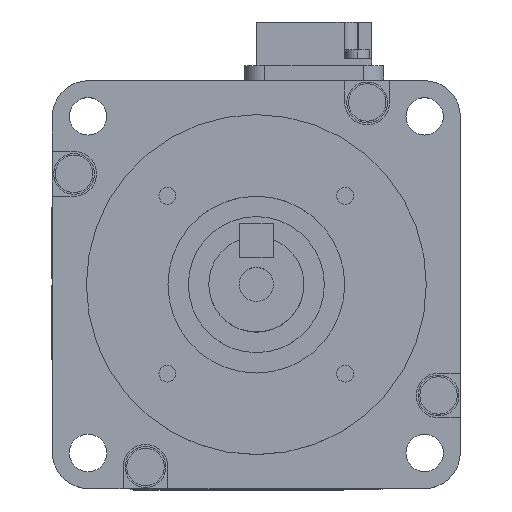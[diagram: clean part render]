
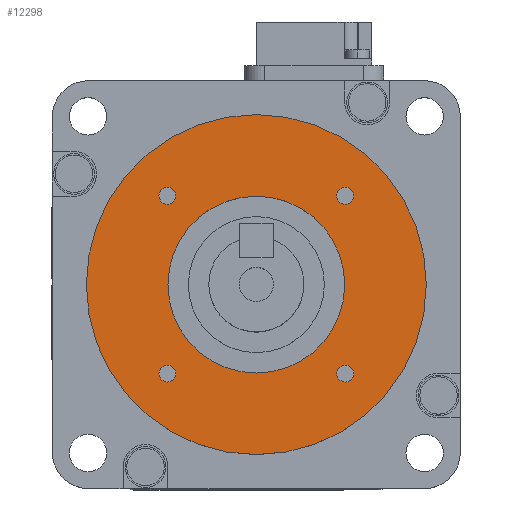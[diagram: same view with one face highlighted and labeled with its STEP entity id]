
A CAD part, top view. The second image highlights one B-rep face of the part: STEP entity #12298.
In plain terms, the highlighted planar face has unit normal (0, 0, 1).
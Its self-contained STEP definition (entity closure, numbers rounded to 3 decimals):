
#95 = VERTEX_POINT ( 'NONE', #619 ) ;
#146 = EDGE_CURVE ( 'NONE', #95, #13467, #695, .T. ) ;
#619 = CARTESIAN_POINT ( 'NONE',  ( -25., 0., 3. ) ) ;
#690 = DIRECTION ( 'NONE',  ( -1., 0., 0. ) ) ;
#692 = DIRECTION ( 'NONE',  ( 0., 0., -1. ) ) ;
#693 = CARTESIAN_POINT ( 'NONE',  ( 0., 0., 3. ) ) ;
#694 = AXIS2_PLACEMENT_3D ( 'NONE', #693, #692, #690 ) ;
#695 = CIRCLE ( 'NONE', #694, 25. ) ;
#1521 = CARTESIAN_POINT ( 'NONE',  ( -13., 0., 3. ) ) ;
#1528 = CARTESIAN_POINT ( 'NONE',  ( 13., 0., 3. ) ) ;
#1534 = DIRECTION ( 'NONE',  ( -1., 0., 0. ) ) ;
#1535 = DIRECTION ( 'NONE',  ( 0., 0., -1. ) ) ;
#1536 = CARTESIAN_POINT ( 'NONE',  ( 0., 0., 3. ) ) ;
#1537 = AXIS2_PLACEMENT_3D ( 'NONE', #1536, #1535, #1534 ) ;
#1538 = CIRCLE ( 'NONE', #1537, 13. ) ;
#2990 = DIRECTION ( 'NONE',  ( -1., 0., 0. ) ) ;
#2991 = DIRECTION ( 'NONE',  ( 0., 0., -1. ) ) ;
#2992 = CARTESIAN_POINT ( 'NONE',  ( 0., 0., 3. ) ) ;
#2993 = AXIS2_PLACEMENT_3D ( 'NONE', #2992, #2991, #2990 ) ;
#2994 = CIRCLE ( 'NONE', #2993, 13. ) ;
#3076 = CARTESIAN_POINT ( 'NONE',  ( -14.331, 13.081, 3. ) ) ;
#3122 = DIRECTION ( 'NONE',  ( 1., 0., 0. ) ) ;
#3125 = DIRECTION ( 'NONE',  ( 0., 0., 1. ) ) ;
#3126 = CARTESIAN_POINT ( 'NONE',  ( 13.081, 13.081, 3. ) ) ;
#3127 = AXIS2_PLACEMENT_3D ( 'NONE', #3126, #3125, #3122 ) ;
#3128 = CIRCLE ( 'NONE', #3127, 1.25 ) ;
#3555 = DIRECTION ( 'NONE',  ( -1., 0., 0. ) ) ;
#3556 = DIRECTION ( 'NONE',  ( 0., 0., -1. ) ) ;
#3557 = CARTESIAN_POINT ( 'NONE',  ( 0., 0., 3. ) ) ;
#3558 = AXIS2_PLACEMENT_3D ( 'NONE', #3557, #3556, #3555 ) ;
#3559 = CIRCLE ( 'NONE', #3558, 25. ) ;
#4499 = EDGE_CURVE ( 'NONE', #4671, #4683, #1538, .T. ) ;
#4640 = DIRECTION ( 'NONE',  ( -1., 0., 0. ) ) ;
#4641 = DIRECTION ( 'NONE',  ( 0., 0., 1. ) ) ;
#4642 = CARTESIAN_POINT ( 'NONE',  ( -13.081, -13.081, 3. ) ) ;
#4643 = AXIS2_PLACEMENT_3D ( 'NONE', #4642, #4641, #4640 ) ;
#4644 = CIRCLE ( 'NONE', #4643, 1.25 ) ;
#4671 = VERTEX_POINT ( 'NONE', #1528 ) ;
#4683 = VERTEX_POINT ( 'NONE', #1521 ) ;
#4693 = CARTESIAN_POINT ( 'NONE',  ( 14.331, -13.081, 3. ) ) ;
#4701 = DIRECTION ( 'NONE',  ( 0., -1., 0. ) ) ;
#4703 = DIRECTION ( 'NONE',  ( 0., 0., 1. ) ) ;
#4704 = CARTESIAN_POINT ( 'NONE',  ( 13.081, -13.081, 3. ) ) ;
#4705 = AXIS2_PLACEMENT_3D ( 'NONE', #4704, #4703, #4701 ) ;
#4706 = CIRCLE ( 'NONE', #4705, 1.25 ) ;
#4836 = CARTESIAN_POINT ( 'NONE',  ( 11.831, -13.081, 3. ) ) ;
#5277 = CARTESIAN_POINT ( 'NONE',  ( -14.331, -13.081, 3. ) ) ;
#5315 = CARTESIAN_POINT ( 'NONE',  ( -11.831, 13.081, 3. ) ) ;
#5323 = CARTESIAN_POINT ( 'NONE',  ( -11.831, -13.081, 3. ) ) ;
#5329 = DIRECTION ( 'NONE',  ( 0., 1., 0. ) ) ;
#5330 = DIRECTION ( 'NONE',  ( 0., 0., 1. ) ) ;
#5331 = CARTESIAN_POINT ( 'NONE',  ( -13.081, 13.081, 3. ) ) ;
#5332 = AXIS2_PLACEMENT_3D ( 'NONE', #5331, #5330, #5329 ) ;
#5333 = CIRCLE ( 'NONE', #5332, 1.25 ) ;
#5418 = CARTESIAN_POINT ( 'NONE',  ( 14.331, 13.081, 3. ) ) ;
#5447 = CARTESIAN_POINT ( 'NONE',  ( 11.831, 13.081, 3. ) ) ;
#5588 = DIRECTION ( 'NONE',  ( 1., 0., 0. ) ) ;
#5589 = DIRECTION ( 'NONE',  ( 0., 0., 1. ) ) ;
#5590 = CARTESIAN_POINT ( 'NONE',  ( 13.081, 13.081, 3. ) ) ;
#5591 = AXIS2_PLACEMENT_3D ( 'NONE', #5590, #5589, #5588 ) ;
#5592 = CIRCLE ( 'NONE', #5591, 1.25 ) ;
#6834 = DIRECTION ( 'NONE',  ( 1., 0., 0. ) ) ;
#6835 = DIRECTION ( 'NONE',  ( 0., 0., 1. ) ) ;
#6836 = CARTESIAN_POINT ( 'NONE',  ( 0., 25., 3. ) ) ;
#6837 = AXIS2_PLACEMENT_3D ( 'NONE', #6836, #6835, #6834 ) ;
#6838 = PLANE ( 'NONE',  #6837 ) ;
#6839 = FACE_OUTER_BOUND ( 'NONE', #10079, .T. ) ;
#6840 = FACE_BOUND ( 'NONE', #10071, .T. ) ;
#6841 = FACE_BOUND ( 'NONE', #12401, .T. ) ;
#6842 = FACE_BOUND ( 'NONE', #12428, .T. ) ;
#6843 = FACE_BOUND ( 'NONE', #12451, .T. ) ;
#6844 = FACE_BOUND ( 'NONE', #12296, .T. ) ;
#6999 = DIRECTION ( 'NONE',  ( 0., 1., 0. ) ) ;
#7000 = DIRECTION ( 'NONE',  ( 0., 0., 1. ) ) ;
#7001 = CARTESIAN_POINT ( 'NONE',  ( -13.081, 13.081, 3. ) ) ;
#7002 = AXIS2_PLACEMENT_3D ( 'NONE', #7001, #7000, #6999 ) ;
#7003 = CIRCLE ( 'NONE', #7002, 1.25 ) ;
#7036 = DIRECTION ( 'NONE',  ( -1., 0., 0. ) ) ;
#7037 = DIRECTION ( 'NONE',  ( 0., 0., 1. ) ) ;
#7038 = CARTESIAN_POINT ( 'NONE',  ( -13.081, -13.081, 3. ) ) ;
#7039 = AXIS2_PLACEMENT_3D ( 'NONE', #7038, #7037, #7036 ) ;
#7040 = CIRCLE ( 'NONE', #7039, 1.25 ) ;
#7075 = DIRECTION ( 'NONE',  ( 0., -1., 0. ) ) ;
#7076 = DIRECTION ( 'NONE',  ( 0., 0., 1. ) ) ;
#7077 = CARTESIAN_POINT ( 'NONE',  ( 13.081, -13.081, 3. ) ) ;
#7078 = AXIS2_PLACEMENT_3D ( 'NONE', #7077, #7076, #7075 ) ;
#7079 = CIRCLE ( 'NONE', #7078, 1.25 ) ;
#8821 = CARTESIAN_POINT ( 'NONE',  ( 25., 0., 3. ) ) ;
#10056 = ORIENTED_EDGE ( 'NONE', *, *, #146, .F. ) ;
#10063 = ORIENTED_EDGE ( 'NONE', *, *, #10400, .F. ) ;
#10071 = EDGE_LOOP ( 'NONE', ( #10072, #10075 ) ) ;
#10072 = ORIENTED_EDGE ( 'NONE', *, *, #10074, .T. ) ;
#10074 = EDGE_CURVE ( 'NONE', #4683, #4671, #2994, .T. ) ;
#10075 = ORIENTED_EDGE ( 'NONE', *, *, #4499, .T. ) ;
#10079 = EDGE_LOOP ( 'NONE', ( #10056, #10063 ) ) ;
#10113 = ORIENTED_EDGE ( 'NONE', *, *, #11616, .F. ) ;
#10141 = VERTEX_POINT ( 'NONE', #3076 ) ;
#10158 = EDGE_CURVE ( 'NONE', #11492, #11515, #3128, .T. ) ;
#10400 = EDGE_CURVE ( 'NONE', #13467, #95, #3559, .T. ) ;
#11055 = EDGE_CURVE ( 'NONE', #11414, #11432, #4644, .T. ) ;
#11058 = EDGE_CURVE ( 'NONE', #11132, #11064, #4706, .T. ) ;
#11064 = VERTEX_POINT ( 'NONE', #4693 ) ;
#11132 = VERTEX_POINT ( 'NONE', #4836 ) ;
#11414 = VERTEX_POINT ( 'NONE', #5277 ) ;
#11432 = VERTEX_POINT ( 'NONE', #5323 ) ;
#11441 = VERTEX_POINT ( 'NONE', #5315 ) ;
#11472 = EDGE_CURVE ( 'NONE', #10141, #11441, #5333, .T. ) ;
#11492 = VERTEX_POINT ( 'NONE', #5418 ) ;
#11515 = VERTEX_POINT ( 'NONE', #5447 ) ;
#11616 = EDGE_CURVE ( 'NONE', #11515, #11492, #5592, .T. ) ;
#12296 = EDGE_LOOP ( 'NONE', ( #12459, #12450 ) ) ;
#12298 = ADVANCED_FACE ( 'NONE', ( #6844, #6843, #6842, #6841, #6840, #6839 ), #6838, .T. ) ;
#12380 = ORIENTED_EDGE ( 'NONE', *, *, #10158, .F. ) ;
#12401 = EDGE_LOOP ( 'NONE', ( #12380, #10113 ) ) ;
#12412 = ORIENTED_EDGE ( 'NONE', *, *, #11472, .F. ) ;
#12417 = EDGE_CURVE ( 'NONE', #11441, #10141, #7003, .T. ) ;
#12422 = ORIENTED_EDGE ( 'NONE', *, *, #12417, .F. ) ;
#12428 = EDGE_LOOP ( 'NONE', ( #12422, #12412 ) ) ;
#12435 = EDGE_CURVE ( 'NONE', #11432, #11414, #7040, .T. ) ;
#12436 = ORIENTED_EDGE ( 'NONE', *, *, #11055, .F. ) ;
#12449 = EDGE_CURVE ( 'NONE', #11064, #11132, #7079, .T. ) ;
#12450 = ORIENTED_EDGE ( 'NONE', *, *, #11058, .F. ) ;
#12451 = EDGE_LOOP ( 'NONE', ( #12452, #12436 ) ) ;
#12452 = ORIENTED_EDGE ( 'NONE', *, *, #12435, .F. ) ;
#12459 = ORIENTED_EDGE ( 'NONE', *, *, #12449, .F. ) ;
#13467 = VERTEX_POINT ( 'NONE', #8821 ) ;
